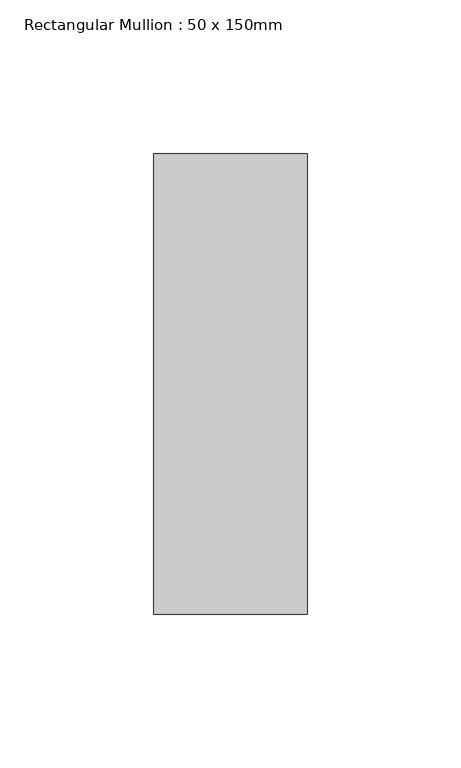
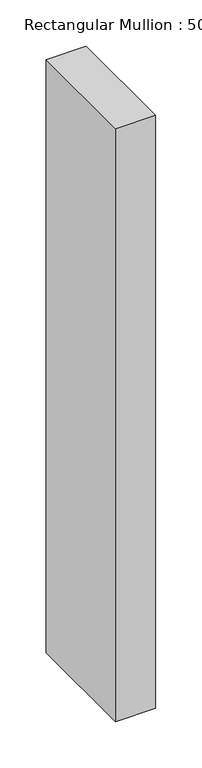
"""IFC4 building model written with IfcOpenShell, lengths in millimetres: member geometry, Rectangular Mullion : 50 x 150mm."""

import ifcopenshell
import ifcopenshell.guid

model = None  # the IFC model being written
_history = None  # IfcOwnerHistory: only IFC2X3 demands one
_inside = {}  # id of a spatial element -> (the spatial element, [elements in it])
_under = {}  # id of a project, library or spatial element -> (it, [spatial elements below it])
_declared = {}  # id of a project -> (the project, [libraries it declares])
_typed = {}  # id of a type object -> (the type object, [elements of that type])
_made_of = {}  # id of a material, layer set ... -> (it, [elements and type objects made of it])


def new_model(schema):
    """Start an empty IFC model of exactly this schema.

    Asked for "IFC4X3", IfcOpenShell would pick the latest addendum, in which some entities
    have other attributes; the version numbers below select the first issue.
    IFC2X3 requires an IfcOwnerHistory on every rooted entity: one is made here for all.
    """
    global model, _history
    if schema == "IFC4X3":
        model = ifcopenshell.file(schema_version=(4, 3, 0, 0))
    else:
        model = ifcopenshell.file(schema=schema)
    _inside.clear()
    _under.clear()
    _declared.clear()
    _typed.clear()
    _made_of.clear()
    _history = None
    if model.schema == "IFC2X3":
        org = make("IfcOrganization", Name="unknown")
        user = make(
            "IfcPersonAndOrganization",
            ThePerson=make("IfcPerson", FamilyName="unknown"),
            TheOrganization=org,
        )
        app = make(
            "IfcApplication",
            ApplicationDeveloper=org,
            Version="unknown",
            ApplicationFullName="unknown",
            ApplicationIdentifier="unknown",
        )
        _history = make(
            "IfcOwnerHistory",
            OwningUser=user,
            OwningApplication=app,
            ChangeAction="ADDED",
            CreationDate=0,
        )
    return model


def make(cls, **values):
    """One entity of the class cls with the attributes given. An attribute that is None is left unset."""
    return model.create_entity(
        cls, **{name: value for name, value in values.items() if value is not None}
    )


def rooted(cls, **values):
    """An entity with a GlobalId (a new one), such as an element, a storey or a relation."""
    return make(cls, GlobalId=ifcopenshell.guid.new(), OwnerHistory=_history, **values)


def si_unit(unit_type, name, prefix=None):
    """IfcSIUnit, for example si_unit("LENGTHUNIT", "METRE", prefix="MILLI")."""
    return make("IfcSIUnit", UnitType=unit_type, Prefix=prefix, Name=name)


def assignment(units):
    """IfcUnitAssignment: the units of a project."""
    return None if units is None else make("IfcUnitAssignment", Units=units)


def point(xyz):
    """IfcCartesianPoint."""
    return None if xyz is None else make("IfcCartesianPoint", Coordinates=xyz)


def direction(xyz):
    """IfcDirection."""
    return None if xyz is None else make("IfcDirection", DirectionRatios=xyz)


def frame(location, z_axis=None, x_axis=None):
    """IfcAxis2Placement3D, a coordinate frame: its origin and axes. An axis left out is left unset."""
    return make(
        "IfcAxis2Placement3D",
        Location=point(location),
        Axis=direction(z_axis),
        RefDirection=direction(x_axis),
    )


def origin():
    """The frame at (0, 0, 0) with its axes left unset."""
    return frame((0.0, 0.0, 0.0))


def place(relative_to, where):
    """IfcLocalPlacement: puts the frame where relative to a parent placement (None: the world)."""
    return make(
        "IfcLocalPlacement", PlacementRelTo=relative_to, RelativePlacement=where
    )


def context(
    kind, dimensions, precision=None, world=None, true_north=None, identifier=None
):
    """IfcGeometricRepresentationContext, for example the 3D "Model" context."""
    return make(
        "IfcGeometricRepresentationContext",
        ContextIdentifier=identifier,
        ContextType=kind,
        CoordinateSpaceDimension=dimensions,
        Precision=precision,
        WorldCoordinateSystem=world,
        TrueNorth=true_north,
    )


def project(units=None, contexts=None):
    """IfcProject with its units and contexts."""
    return rooted(
        "IfcProject",
        Name="project",
        RepresentationContexts=contexts,
        UnitsInContext=assignment(units),
    )


def spatial(cls, under=None, at=None, **own):
    """A site, building, storey or space (cls), placed at a placement, below another one or the project."""
    s = rooted(cls, ObjectPlacement=at, **own)
    if under is not None:
        _under.setdefault(under.id(), (under, []))[1].append(s)
    return s


def polyline(points):
    """IfcPolyline through the points."""
    return make("IfcPolyline", Points=[point(p) for p in points])


def outline(outer, holes=None, kind="AREA"):
    """IfcArbitraryClosedProfileDef: a profile drawn as a closed curve; with holes, ...WithVoids."""
    if holes is None:
        return make("IfcArbitraryClosedProfileDef", ProfileType=kind, OuterCurve=outer)
    return make(
        "IfcArbitraryProfileDefWithVoids",
        ProfileType=kind,
        OuterCurve=outer,
        InnerCurves=holes,
    )


def extrude(swept, where, along, depth):
    """IfcExtrudedAreaSolid: the profile swept, set in the frame where, extruded along a direction by depth."""
    return make(
        "IfcExtrudedAreaSolid",
        SweptArea=swept,
        Position=where,
        ExtrudedDirection=direction(along),
        Depth=depth,
    )


def shape(context_of_items, identifier, shape_type, items):
    """IfcShapeRepresentation: the items that make up one representation, for example the "Body"."""
    return make(
        "IfcShapeRepresentation",
        ContextOfItems=context_of_items,
        RepresentationIdentifier=identifier,
        RepresentationType=shape_type,
        Items=items,
    )


def source(mapping_origin, context_of_items, identifier, shape_type, items):
    """IfcRepresentationMap: a shape defined once, which mapped items show again and again."""
    return make(
        "IfcRepresentationMap",
        MappingOrigin=mapping_origin,
        MappedRepresentation=shape(context_of_items, identifier, shape_type, items),
    )


def transform(
    local_origin,
    x_axis=None,
    y_axis=None,
    z_axis=None,
    scale=None,
    scale2=None,
    scale3=None,
    uniform=True,
):
    """IfcCartesianTransformationOperator3D, or its non-uniform kind. x_axis, y_axis, z_axis: its Axis1, 2, 3."""
    if uniform:
        return make(
            "IfcCartesianTransformationOperator3D",
            Axis1=direction(x_axis),
            Axis2=direction(y_axis),
            LocalOrigin=point(local_origin),
            Scale=scale,
            Axis3=direction(z_axis),
        )
    return make(
        "IfcCartesianTransformationOperator3DnonUniform",
        Axis1=direction(x_axis),
        Axis2=direction(y_axis),
        LocalOrigin=point(local_origin),
        Scale=scale,
        Axis3=direction(z_axis),
        Scale2=scale2,
        Scale3=scale3,
    )


def mapped(mapping_source, mapping_target):
    """IfcMappedItem: shows the shape of a source again, moved by a transform."""
    return make(
        "IfcMappedItem", MappingSource=mapping_source, MappingTarget=mapping_target
    )


def made_of(thing, what):
    """Note that an element or type object is made of a material, layer set ...; save() writes the relation."""
    if what is not None:
        _made_of.setdefault(what.id(), (what, []))[1].append(thing)
    return thing


def element(
    cls,
    number,
    at=None,
    inside=None,
    cuts=None,
    type_object=None,
    material=None,
    context=None,
    identifier="Body",
    shape_type=None,
    held_by="IfcProductDefinitionShape",
    body=None,
    shapes=None,
    **own,
):
    """One element of the class cls, such as IfcWall. Its Tag is "e" and its number.

    at: its placement. inside: the storey or other place that contains it. cuts: it is an
    opening in that element (IfcRelVoidsElement). A single representation is given by context,
    identifier, shape_type and body (its items); several are given by shapes. held_by: the class
    of the entity that holds the representations. save() writes the other relations.
    """
    e = rooted(cls, Tag="e%d" % number, ObjectPlacement=at, **own)
    if body is not None:
        shapes = [shape(context, identifier, shape_type, body)]
    if shapes is not None:
        e.Representation = make(held_by, Representations=shapes)
    if inside is not None:
        _inside.setdefault(inside.id(), (inside, []))[1].append(e)
    if cuts is not None:
        rooted(
            "IfcRelVoidsElement", RelatingBuildingElement=cuts, RelatedOpeningElement=e
        )
    if type_object is not None:
        _typed.setdefault(type_object.id(), (type_object, []))[1].append(e)
    return made_of(e, material)


def aggregate(whole, parts):
    """IfcRelAggregates: a whole, such as a stair, and the parts it consists of."""
    return rooted("IfcRelAggregates", RelatingObject=whole, RelatedObjects=parts)


def save(model, path):
    """Write the relations noted so far, then the file.

    IfcRelAggregates (storeys below a building ...), IfcRelContainedInSpatialStructure (elements
    in a storey), IfcRelDefinesByType, IfcRelAssociatesMaterial and IfcRelDeclares: one each for
    every whole, place, type object, material and project.
    """
    for whole, parts in _under.values():
        aggregate(whole, parts)
    for where, things in _inside.values():
        rooted(
            "IfcRelContainedInSpatialStructure",
            RelatedElements=things,
            RelatingStructure=where,
        )
    for kind, things in _typed.values():
        rooted("IfcRelDefinesByType", RelatedObjects=things, RelatingType=kind)
    for what, things in _made_of.values():
        rooted("IfcRelAssociatesMaterial", RelatedObjects=things, RelatingMaterial=what)
    for by, libraries in _declared.values():
        rooted("IfcRelDeclares", RelatingContext=by, RelatedDefinitions=libraries)
    model.write(path)


def rectangular_mullion_50_x_150mm_52b77c49(model_context):
    return source(origin(), model_context, "Body", "SweptSolid", [
        extrude(outline(polyline([(25.0, 75.0), (25.0, -75.0), (-25.0, -75.0), (-25.0, 75.0), (25.0, 75.0)])), frame((0.0, 0.0, -781.2500002), z_axis=(0.0, 0.0, 1.0), x_axis=(1.0, 0.0, 0.0)), (0.0, 0.0, 1.0), 781.2500002),
    ])


if __name__ == "__main__":
    model = new_model("IFC4")
    model_context = context("Model", 3, world=origin())
    ifc_project = project(units=[si_unit("LENGTHUNIT", "METRE", prefix="MILLI")], contexts=[model_context])
    site = spatial("IfcSite", under=ifc_project)
    building = spatial("IfcBuilding", under=site)
    placement = place(None, origin())
    rectangular_mullion_50_x_150mm_shape = rectangular_mullion_50_x_150mm_52b77c49(model_context)
    element("IfcMember", 1, ObjectType="Rectangular Mullion : 50 x 150mm", at=placement, inside=building, context=model_context, shape_type="MappedRepresentation", body=[
        mapped(rectangular_mullion_50_x_150mm_shape, transform((0.0, 0.0, 0.0), x_axis=(1.0, 0.0, 0.0), y_axis=(0.0, 1.0, 0.0), z_axis=(0.0, 0.0, 1.0))),
    ])
    save(model, "model.ifc")
